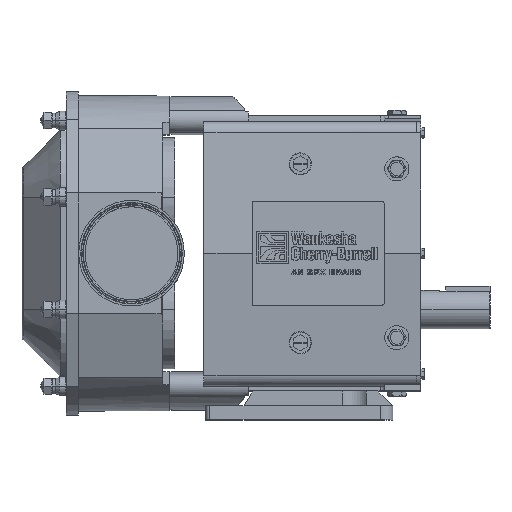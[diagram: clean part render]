
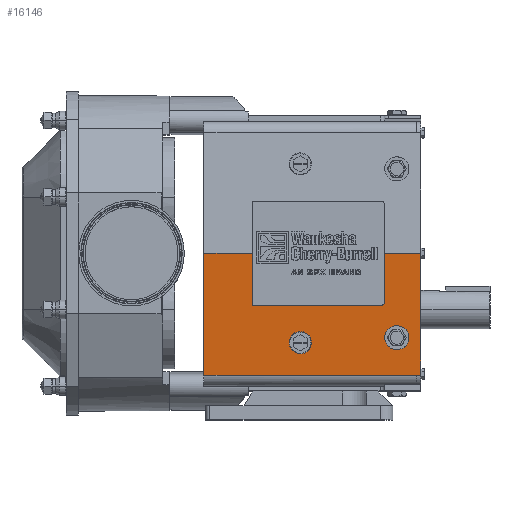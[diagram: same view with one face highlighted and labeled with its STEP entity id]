
A CAD part, top view. The second image highlights one B-rep face of the part: STEP entity #16146.
In plain terms, the highlighted planar face has unit normal (0, -0.087, 0.996).
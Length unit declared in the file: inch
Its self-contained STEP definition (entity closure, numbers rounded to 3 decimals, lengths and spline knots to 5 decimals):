
#11217 = EDGE_CURVE ( 'NONE', #11218, #11219, #28045, .T. ) ;
#11218 = VERTEX_POINT ( 'NONE', #28047 ) ;
#11219 = VERTEX_POINT ( 'NONE', #28046 ) ;
#11377 = VERTEX_POINT ( 'NONE', #28375 ) ;
#11435 = EDGE_CURVE ( 'NONE', #11458, #11377, #28647, .T. ) ;
#11458 = VERTEX_POINT ( 'NONE', #28770 ) ;
#15531 = EDGE_CURVE ( 'NONE', #15532, #15548, #47743, .T. ) ;
#15532 = VERTEX_POINT ( 'NONE', #47739 ) ;
#15540 = EDGE_CURVE ( 'NONE', #15541, #15532, #47726, .T. ) ;
#15541 = VERTEX_POINT ( 'NONE', #47728 ) ;
#15547 = EDGE_CURVE ( 'NONE', #15548, #15549, #47769, .T. ) ;
#15548 = VERTEX_POINT ( 'NONE', #47765 ) ;
#15549 = VERTEX_POINT ( 'NONE', #47764 ) ;
#15561 = EDGE_CURVE ( 'NONE', #11377, #11458, #47749, .T. ) ;
#15566 = EDGE_CURVE ( 'NONE', #11219, #11218, #47783, .T. ) ;
#15606 = VERTEX_POINT ( 'NONE', #47886 ) ;
#15611 = EDGE_CURVE ( 'NONE', #15606, #15541, #47885, .T. ) ;
#16064 = EDGE_LOOP ( 'NONE', ( #16065, #16068, #16069, #16070, #16071, #16072, #16133, #16136, #16138, #16139 ) ) ;
#16065 = ORIENTED_EDGE ( 'NONE', *, *, #16066, .T. ) ;
#16066 = EDGE_CURVE ( 'NONE', #16067, #15606, #48556, .T. ) ;
#16067 = VERTEX_POINT ( 'NONE', #48552 ) ;
#16068 = ORIENTED_EDGE ( 'NONE', *, *, #15611, .T. ) ;
#16069 = ORIENTED_EDGE ( 'NONE', *, *, #15540, .T. ) ;
#16070 = ORIENTED_EDGE ( 'NONE', *, *, #15531, .T. ) ;
#16071 = ORIENTED_EDGE ( 'NONE', *, *, #15547, .T. ) ;
#16072 = ORIENTED_EDGE ( 'NONE', *, *, #16132, .T. ) ;
#16073 = VERTEX_POINT ( 'NONE', #48551 ) ;
#16083 = VERTEX_POINT ( 'NONE', #48594 ) ;
#16085 = EDGE_CURVE ( 'NONE', #16086, #16083, #48593, .T. ) ;
#16086 = VERTEX_POINT ( 'NONE', #48589 ) ;
#16118 = EDGE_LOOP ( 'NONE', ( #16119, #16120 ) ) ;
#16119 = ORIENTED_EDGE ( 'NONE', *, *, #15561, .F. ) ;
#16120 = ORIENTED_EDGE ( 'NONE', *, *, #11435, .F. ) ;
#16132 = EDGE_CURVE ( 'NONE', #15549, #16073, #48653, .T. ) ;
#16133 = ORIENTED_EDGE ( 'NONE', *, *, #16134, .T. ) ;
#16134 = EDGE_CURVE ( 'NONE', #16073, #16135, #48649, .T. ) ;
#16135 = VERTEX_POINT ( 'NONE', #48645 ) ;
#16136 = ORIENTED_EDGE ( 'NONE', *, *, #16137, .T. ) ;
#16137 = EDGE_CURVE ( 'NONE', #16135, #16086, #48644, .T. ) ;
#16138 = ORIENTED_EDGE ( 'NONE', *, *, #16085, .T. ) ;
#16139 = ORIENTED_EDGE ( 'NONE', *, *, #16140, .F. ) ;
#16140 = EDGE_CURVE ( 'NONE', #16067, #16083, #48640, .T. ) ;
#16141 = EDGE_LOOP ( 'NONE', ( #16142, #16143 ) ) ;
#16142 = ORIENTED_EDGE ( 'NONE', *, *, #11217, .F. ) ;
#16143 = ORIENTED_EDGE ( 'NONE', *, *, #15566, .F. ) ;
#16146 = ADVANCED_FACE ( 'NONE', ( #48699, #48698, #48695 ), #48696, .F. ) ;
#28041 = CARTESIAN_POINT ( 'NONE',  ( 14.9, -5.25, 4.54068 ) ) ;
#28042 = CARTESIAN_POINT ( 'NONE',  ( 14.9, -6.75, 4.40945 ) ) ;
#28043 = CARTESIAN_POINT ( 'NONE',  ( 13.4, -6.75, 4.40945 ) ) ;
#28044 = CARTESIAN_POINT ( 'NONE',  ( 13.4, -5.25, 4.54068 ) ) ;
#28045 =( BOUNDED_CURVE ( )  B_SPLINE_CURVE ( 3, ( #28044, #28043, #28042, #28041 ),
 .UNSPECIFIED., .F., .T. ) 
 B_SPLINE_CURVE_WITH_KNOTS ( ( 4, 4 ),
 ( 1.5708, 4.71239 ),
 .UNSPECIFIED. ) 
 CURVE ( )  GEOMETRIC_REPRESENTATION_ITEM ( )  RATIONAL_B_SPLINE_CURVE ( ( 1., 0.333, 0.333, 1. ) ) 
 REPRESENTATION_ITEM ( '' )  );
#28046 = CARTESIAN_POINT ( 'NONE',  ( 14.9, -5.25, 4.54068 ) ) ;
#28047 = CARTESIAN_POINT ( 'NONE',  ( 13.4, -5.25, 4.54068 ) ) ;
#28375 = CARTESIAN_POINT ( 'NONE',  ( 7.46, -5.56, 4.51356 ) ) ;
#28636 = CARTESIAN_POINT ( 'NONE',  ( 7.46, -5.56, 4.51356 ) ) ;
#28637 = CARTESIAN_POINT ( 'NONE',  ( 7.46, -4.18, 4.6343 ) ) ;
#28638 = CARTESIAN_POINT ( 'NONE',  ( 8.84, -4.18, 4.6343 ) ) ;
#28640 = CARTESIAN_POINT ( 'NONE',  ( 8.84, -5.56, 4.51356 ) ) ;
#28647 =( BOUNDED_CURVE ( )  B_SPLINE_CURVE ( 3, ( #28640, #28638, #28637, #28636 ),
 .UNSPECIFIED., .F., .T. ) 
 B_SPLINE_CURVE_WITH_KNOTS ( ( 4, 4 ),
 ( 4.71239, 7.85398 ),
 .UNSPECIFIED. ) 
 CURVE ( )  GEOMETRIC_REPRESENTATION_ITEM ( )  RATIONAL_B_SPLINE_CURVE ( ( 1., 0.333, 0.333, 1. ) ) 
 REPRESENTATION_ITEM ( '' )  );
#28770 = CARTESIAN_POINT ( 'NONE',  ( 8.84, -5.56, 4.51356 ) ) ;
#47724 = CARTESIAN_POINT ( 'NONE',  ( 13.404, -3.14645, 4.72472 ) ) ;
#47725 = CARTESIAN_POINT ( 'NONE',  ( 13.404, -3., 4.73753 ) ) ;
#47726 =( BOUNDED_CURVE ( )  B_SPLINE_CURVE ( 3, ( #47725, #47724, #47774, #47773 ),
 .UNSPECIFIED., .F., .T. ) 
 B_SPLINE_CURVE_WITH_KNOTS ( ( 4, 4 ),
 ( 1.5708, 3.14159 ),
 .UNSPECIFIED. ) 
 CURVE ( )  GEOMETRIC_REPRESENTATION_ITEM ( )  RATIONAL_B_SPLINE_CURVE ( ( 1., 0.805, 0.805, 1. ) ) 
 REPRESENTATION_ITEM ( '' )  );
#47728 = CARTESIAN_POINT ( 'NONE',  ( 13.404, -3., 4.73753 ) ) ;
#47739 = CARTESIAN_POINT ( 'NONE',  ( 13.154, -3.25, 4.71566 ) ) ;
#47740 = DIRECTION ( 'NONE',  ( -1., 0., 0. ) ) ;
#47741 = VECTOR ( 'NONE', #47740, 39.37008 ) ;
#47742 = CARTESIAN_POINT ( 'NONE',  ( 13.404, -3.25, 4.71566 ) ) ;
#47743 = LINE ( 'NONE', #47742, #47741 ) ;
#47749 =( BOUNDED_CURVE ( )  B_SPLINE_CURVE ( 3, ( #47792, #47791, #47790, #47789 ),
 .UNSPECIFIED., .F., .T. ) 
 B_SPLINE_CURVE_WITH_KNOTS ( ( 4, 4 ),
 ( 1.5708, 4.71239 ),
 .UNSPECIFIED. ) 
 CURVE ( )  GEOMETRIC_REPRESENTATION_ITEM ( )  RATIONAL_B_SPLINE_CURVE ( ( 1., 0.333, 0.333, 1. ) ) 
 REPRESENTATION_ITEM ( '' )  );
#47764 = CARTESIAN_POINT ( 'NONE',  ( 5.154, 0., 5. ) ) ;
#47765 = CARTESIAN_POINT ( 'NONE',  ( 5.154, -3.25, 4.71566 ) ) ;
#47766 = DIRECTION ( 'NONE',  ( 0., 0.996, 0.087 ) ) ;
#47767 = VECTOR ( 'NONE', #47766, 39.37008 ) ;
#47768 = CARTESIAN_POINT ( 'NONE',  ( 5.154, -1712.79504, -144.85015 ) ) ;
#47769 = LINE ( 'NONE', #47768, #47767 ) ;
#47773 = CARTESIAN_POINT ( 'NONE',  ( 13.154, -3.25, 4.71566 ) ) ;
#47774 = CARTESIAN_POINT ( 'NONE',  ( 13.30045, -3.25, 4.71566 ) ) ;
#47779 = CARTESIAN_POINT ( 'NONE',  ( 13.4, -5.25, 4.54068 ) ) ;
#47780 = CARTESIAN_POINT ( 'NONE',  ( 13.4, -3.75, 4.67192 ) ) ;
#47781 = CARTESIAN_POINT ( 'NONE',  ( 14.9, -3.75, 4.67192 ) ) ;
#47782 = CARTESIAN_POINT ( 'NONE',  ( 14.9, -5.25, 4.54068 ) ) ;
#47783 =( BOUNDED_CURVE ( )  B_SPLINE_CURVE ( 3, ( #47782, #47781, #47780, #47779 ),
 .UNSPECIFIED., .F., .T. ) 
 B_SPLINE_CURVE_WITH_KNOTS ( ( 4, 4 ),
 ( 4.71239, 7.85398 ),
 .UNSPECIFIED. ) 
 CURVE ( )  GEOMETRIC_REPRESENTATION_ITEM ( )  RATIONAL_B_SPLINE_CURVE ( ( 1., 0.333, 0.333, 1. ) ) 
 REPRESENTATION_ITEM ( '' )  );
#47789 = CARTESIAN_POINT ( 'NONE',  ( 8.84, -5.56, 4.51356 ) ) ;
#47790 = CARTESIAN_POINT ( 'NONE',  ( 8.84, -6.94, 4.39283 ) ) ;
#47791 = CARTESIAN_POINT ( 'NONE',  ( 7.46, -6.94, 4.39283 ) ) ;
#47792 = CARTESIAN_POINT ( 'NONE',  ( 7.46, -5.56, 4.51356 ) ) ;
#47882 = DIRECTION ( 'NONE',  ( 0., -0.996, -0.087 ) ) ;
#47883 = VECTOR ( 'NONE', #47882, 39.37008 ) ;
#47884 = CARTESIAN_POINT ( 'NONE',  ( 13.404, -1712.79504, -144.85015 ) ) ;
#47885 = LINE ( 'NONE', #47884, #47883 ) ;
#47886 = CARTESIAN_POINT ( 'NONE',  ( 13.404, 0., 5. ) ) ;
#48551 = CARTESIAN_POINT ( 'NONE',  ( 2.154, 0., 5. ) ) ;
#48552 = CARTESIAN_POINT ( 'NONE',  ( 15.65, 0., 5. ) ) ;
#48553 = DIRECTION ( 'NONE',  ( -1., 0., 0. ) ) ;
#48554 = VECTOR ( 'NONE', #48553, 39.37008 ) ;
#48555 = CARTESIAN_POINT ( 'NONE',  ( 15.65, 0., 5. ) ) ;
#48556 = LINE ( 'NONE', #48555, #48554 ) ;
#48589 = CARTESIAN_POINT ( 'NONE',  ( 15.4, -7.57847, 4.33697 ) ) ;
#48590 = DIRECTION ( 'NONE',  ( 1., 0., 0. ) ) ;
#48591 = VECTOR ( 'NONE', #48590, 39.37008 ) ;
#48592 = CARTESIAN_POINT ( 'NONE',  ( 15.65, -7.57847, 4.33697 ) ) ;
#48593 = LINE ( 'NONE', #48592, #48591 ) ;
#48594 = CARTESIAN_POINT ( 'NONE',  ( 15.65, -7.57847, 4.33697 ) ) ;
#48637 = DIRECTION ( 'NONE',  ( 0., -0.996, -0.087 ) ) ;
#48638 = VECTOR ( 'NONE', #48637, 39.37008 ) ;
#48639 = CARTESIAN_POINT ( 'NONE',  ( 15.65, 0., 5. ) ) ;
#48640 = LINE ( 'NONE', #48639, #48638 ) ;
#48641 = DIRECTION ( 'NONE',  ( 1., 0., 0. ) ) ;
#48642 = VECTOR ( 'NONE', #48641, 39.37008 ) ;
#48643 = CARTESIAN_POINT ( 'NONE',  ( 15.4, -7.57851, 4.33697 ) ) ;
#48644 = LINE ( 'NONE', #48643, #48642 ) ;
#48645 = CARTESIAN_POINT ( 'NONE',  ( 2.154, -7.57851, 4.33697 ) ) ;
#48646 = DIRECTION ( 'NONE',  ( 0., -0.996, -0.087 ) ) ;
#48647 = VECTOR ( 'NONE', #48646, 39.37008 ) ;
#48648 = CARTESIAN_POINT ( 'NONE',  ( 2.154, -9., 4.2126 ) ) ;
#48649 = LINE ( 'NONE', #48648, #48647 ) ;
#48650 = DIRECTION ( 'NONE',  ( -1., 0., 0. ) ) ;
#48651 = VECTOR ( 'NONE', #48650, 39.37008 ) ;
#48652 = CARTESIAN_POINT ( 'NONE',  ( 15.4, 0., 5. ) ) ;
#48653 = LINE ( 'NONE', #48652, #48651 ) ;
#48681 = DIRECTION ( 'NONE',  ( 0., 0.996, 0.087 ) ) ;
#48682 = DIRECTION ( 'NONE',  ( 0., 0.087, -0.996 ) ) ;
#48683 = CARTESIAN_POINT ( 'NONE',  ( 15.65, 0., 5. ) ) ;
#48694 = AXIS2_PLACEMENT_3D ( 'NONE', #48683, #48682, #48681 ) ;
#48695 = FACE_BOUND ( 'NONE', #16118, .T. ) ;
#48696 = PLANE ( 'NONE',  #48694 ) ;
#48698 = FACE_BOUND ( 'NONE', #16141, .T. ) ;
#48699 = FACE_OUTER_BOUND ( 'NONE', #16064, .T. ) ;
